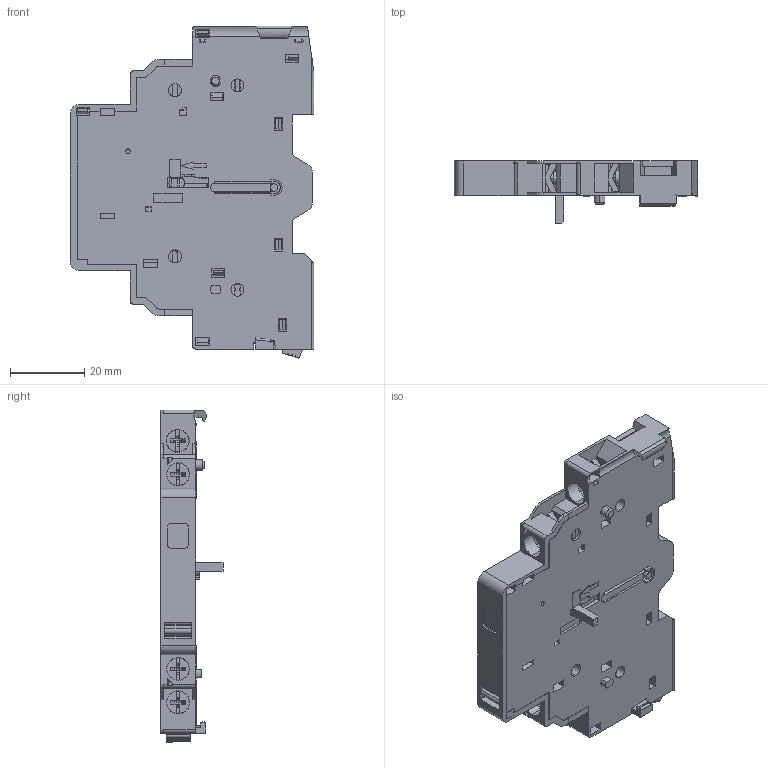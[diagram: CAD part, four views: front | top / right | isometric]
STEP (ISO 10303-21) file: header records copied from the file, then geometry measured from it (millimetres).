
FILE_DESCRIPTION((''),'2;1');
FILE_NAME('NS2-AUNS2-802022020001','2022-04-06T16:21:02',('jszx09'),(''),'CREO PARAMETRIC BY PTC INC, 2020044','CREO PARAMETRIC BY PTC INC, 2020044','');
FILE_SCHEMA(('CONFIG_CONTROL_DESIGN','SHAPE_APPEARANCE_LAYERS_GROUPS'));
Products named in the file (1): NS2-AUNS2-802022020001
Bounding box: 65.5 x 16.7 x 89.39 mm (x, y, z)
Volume: 16896.5 mm3; surface area: 37441.3 mm2
Topology: 3 solids, 3 shells, 2840 faces, 8031 edges, 5188 vertices
Faces by surface type: plane 2185, cylinder 570, torus 40, cone 31, sphere 14
Entity records: 97037 total; most frequent: CARTESIAN_POINT 18073, ORIENTED_EDGE 16034, DIRECTION 14783, EDGE_CURVE 8017, VECTOR 6567, LINE 6567, VERTEX_POINT 5188, AXIS2_PLACEMENT_3D 4108
